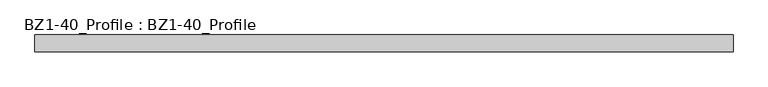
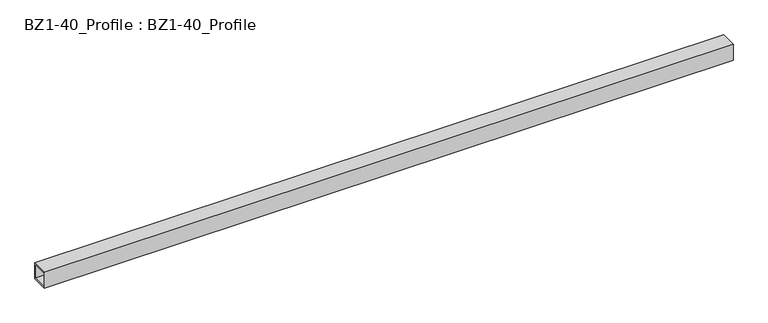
"""IFC4 building model written with IfcOpenShell, lengths in millimetres: beam geometry, BZ1-40_Profile : BZ1-40_Profile."""

import ifcopenshell
import ifcopenshell.guid

model = None  # the IFC model being written
_history = None  # IfcOwnerHistory: only IFC2X3 demands one
_inside = {}  # id of a spatial element -> (the spatial element, [elements in it])
_under = {}  # id of a project, library or spatial element -> (it, [spatial elements below it])
_declared = {}  # id of a project -> (the project, [libraries it declares])
_typed = {}  # id of a type object -> (the type object, [elements of that type])
_made_of = {}  # id of a material, layer set ... -> (it, [elements and type objects made of it])


def new_model(schema):
    """Start an empty IFC model of exactly this schema.

    Asked for "IFC4X3", IfcOpenShell would pick the latest addendum, in which some entities
    have other attributes; the version numbers below select the first issue.
    IFC2X3 requires an IfcOwnerHistory on every rooted entity: one is made here for all.
    """
    global model, _history
    if schema == "IFC4X3":
        model = ifcopenshell.file(schema_version=(4, 3, 0, 0))
    else:
        model = ifcopenshell.file(schema=schema)
    _inside.clear()
    _under.clear()
    _declared.clear()
    _typed.clear()
    _made_of.clear()
    _history = None
    if model.schema == "IFC2X3":
        org = make("IfcOrganization", Name="unknown")
        user = make(
            "IfcPersonAndOrganization",
            ThePerson=make("IfcPerson", FamilyName="unknown"),
            TheOrganization=org,
        )
        app = make(
            "IfcApplication",
            ApplicationDeveloper=org,
            Version="unknown",
            ApplicationFullName="unknown",
            ApplicationIdentifier="unknown",
        )
        _history = make(
            "IfcOwnerHistory",
            OwningUser=user,
            OwningApplication=app,
            ChangeAction="ADDED",
            CreationDate=0,
        )
    return model


def make(cls, **values):
    """One entity of the class cls with the attributes given. An attribute that is None is left unset."""
    return model.create_entity(
        cls, **{name: value for name, value in values.items() if value is not None}
    )


def rooted(cls, **values):
    """An entity with a GlobalId (a new one), such as an element, a storey or a relation."""
    return make(cls, GlobalId=ifcopenshell.guid.new(), OwnerHistory=_history, **values)


def si_unit(unit_type, name, prefix=None):
    """IfcSIUnit, for example si_unit("LENGTHUNIT", "METRE", prefix="MILLI")."""
    return make("IfcSIUnit", UnitType=unit_type, Prefix=prefix, Name=name)


def assignment(units):
    """IfcUnitAssignment: the units of a project."""
    return None if units is None else make("IfcUnitAssignment", Units=units)


def point(xyz):
    """IfcCartesianPoint."""
    return None if xyz is None else make("IfcCartesianPoint", Coordinates=xyz)


def direction(xyz):
    """IfcDirection."""
    return None if xyz is None else make("IfcDirection", DirectionRatios=xyz)


def frame(location, z_axis=None, x_axis=None):
    """IfcAxis2Placement3D, a coordinate frame: its origin and axes. An axis left out is left unset."""
    return make(
        "IfcAxis2Placement3D",
        Location=point(location),
        Axis=direction(z_axis),
        RefDirection=direction(x_axis),
    )


def origin():
    """The frame at (0, 0, 0) with its axes left unset."""
    return frame((0.0, 0.0, 0.0))


def place(relative_to, where):
    """IfcLocalPlacement: puts the frame where relative to a parent placement (None: the world)."""
    return make(
        "IfcLocalPlacement", PlacementRelTo=relative_to, RelativePlacement=where
    )


def context(
    kind, dimensions, precision=None, world=None, true_north=None, identifier=None
):
    """IfcGeometricRepresentationContext, for example the 3D "Model" context."""
    return make(
        "IfcGeometricRepresentationContext",
        ContextIdentifier=identifier,
        ContextType=kind,
        CoordinateSpaceDimension=dimensions,
        Precision=precision,
        WorldCoordinateSystem=world,
        TrueNorth=true_north,
    )


def project(units=None, contexts=None):
    """IfcProject with its units and contexts."""
    return rooted(
        "IfcProject",
        Name="project",
        RepresentationContexts=contexts,
        UnitsInContext=assignment(units),
    )


def spatial(cls, under=None, at=None, **own):
    """A site, building, storey or space (cls), placed at a placement, below another one or the project."""
    s = rooted(cls, ObjectPlacement=at, **own)
    if under is not None:
        _under.setdefault(under.id(), (under, []))[1].append(s)
    return s


def polyline(points):
    """IfcPolyline through the points."""
    return make("IfcPolyline", Points=[point(p) for p in points])


def outline(outer, holes=None, kind="AREA"):
    """IfcArbitraryClosedProfileDef: a profile drawn as a closed curve; with holes, ...WithVoids."""
    if holes is None:
        return make("IfcArbitraryClosedProfileDef", ProfileType=kind, OuterCurve=outer)
    return make(
        "IfcArbitraryProfileDefWithVoids",
        ProfileType=kind,
        OuterCurve=outer,
        InnerCurves=holes,
    )


def extrude(swept, where, along, depth):
    """IfcExtrudedAreaSolid: the profile swept, set in the frame where, extruded along a direction by depth."""
    return make(
        "IfcExtrudedAreaSolid",
        SweptArea=swept,
        Position=where,
        ExtrudedDirection=direction(along),
        Depth=depth,
    )


def shape(context_of_items, identifier, shape_type, items):
    """IfcShapeRepresentation: the items that make up one representation, for example the "Body"."""
    return make(
        "IfcShapeRepresentation",
        ContextOfItems=context_of_items,
        RepresentationIdentifier=identifier,
        RepresentationType=shape_type,
        Items=items,
    )


def source(mapping_origin, context_of_items, identifier, shape_type, items):
    """IfcRepresentationMap: a shape defined once, which mapped items show again and again."""
    return make(
        "IfcRepresentationMap",
        MappingOrigin=mapping_origin,
        MappedRepresentation=shape(context_of_items, identifier, shape_type, items),
    )


def transform(
    local_origin,
    x_axis=None,
    y_axis=None,
    z_axis=None,
    scale=None,
    scale2=None,
    scale3=None,
    uniform=True,
):
    """IfcCartesianTransformationOperator3D, or its non-uniform kind. x_axis, y_axis, z_axis: its Axis1, 2, 3."""
    if uniform:
        return make(
            "IfcCartesianTransformationOperator3D",
            Axis1=direction(x_axis),
            Axis2=direction(y_axis),
            LocalOrigin=point(local_origin),
            Scale=scale,
            Axis3=direction(z_axis),
        )
    return make(
        "IfcCartesianTransformationOperator3DnonUniform",
        Axis1=direction(x_axis),
        Axis2=direction(y_axis),
        LocalOrigin=point(local_origin),
        Scale=scale,
        Axis3=direction(z_axis),
        Scale2=scale2,
        Scale3=scale3,
    )


def mapped(mapping_source, mapping_target):
    """IfcMappedItem: shows the shape of a source again, moved by a transform."""
    return make(
        "IfcMappedItem", MappingSource=mapping_source, MappingTarget=mapping_target
    )


def made_of(thing, what):
    """Note that an element or type object is made of a material, layer set ...; save() writes the relation."""
    if what is not None:
        _made_of.setdefault(what.id(), (what, []))[1].append(thing)
    return thing


def element(
    cls,
    number,
    at=None,
    inside=None,
    cuts=None,
    type_object=None,
    material=None,
    context=None,
    identifier="Body",
    shape_type=None,
    held_by="IfcProductDefinitionShape",
    body=None,
    shapes=None,
    **own,
):
    """One element of the class cls, such as IfcWall. Its Tag is "e" and its number.

    at: its placement. inside: the storey or other place that contains it. cuts: it is an
    opening in that element (IfcRelVoidsElement). A single representation is given by context,
    identifier, shape_type and body (its items); several are given by shapes. held_by: the class
    of the entity that holds the representations. save() writes the other relations.
    """
    e = rooted(cls, Tag="e%d" % number, ObjectPlacement=at, **own)
    if body is not None:
        shapes = [shape(context, identifier, shape_type, body)]
    if shapes is not None:
        e.Representation = make(held_by, Representations=shapes)
    if inside is not None:
        _inside.setdefault(inside.id(), (inside, []))[1].append(e)
    if cuts is not None:
        rooted(
            "IfcRelVoidsElement", RelatingBuildingElement=cuts, RelatedOpeningElement=e
        )
    if type_object is not None:
        _typed.setdefault(type_object.id(), (type_object, []))[1].append(e)
    return made_of(e, material)


def aggregate(whole, parts):
    """IfcRelAggregates: a whole, such as a stair, and the parts it consists of."""
    return rooted("IfcRelAggregates", RelatingObject=whole, RelatedObjects=parts)


def save(model, path):
    """Write the relations noted so far, then the file.

    IfcRelAggregates (storeys below a building ...), IfcRelContainedInSpatialStructure (elements
    in a storey), IfcRelDefinesByType, IfcRelAssociatesMaterial and IfcRelDeclares: one each for
    every whole, place, type object, material and project.
    """
    for whole, parts in _under.values():
        aggregate(whole, parts)
    for where, things in _inside.values():
        rooted(
            "IfcRelContainedInSpatialStructure",
            RelatedElements=things,
            RelatingStructure=where,
        )
    for kind, things in _typed.values():
        rooted("IfcRelDefinesByType", RelatedObjects=things, RelatingType=kind)
    for what, things in _made_of.values():
        rooted("IfcRelAssociatesMaterial", RelatedObjects=things, RelatingMaterial=what)
    for by, libraries in _declared.values():
        rooted("IfcRelDeclares", RelatingContext=by, RelatedDefinitions=libraries)
    model.write(path)


def bz1_40_profile_bz1_40_profile_404621f4(model_context):
    return source(origin(), model_context, "Body", "SweptSolid", [
        extrude(outline(polyline([(-20.0, 20.0), (20.0, 20.0), (20.0, -20.0), (-20.0, -20.0), (-20.0, 20.0)]), holes=[polyline([(-16.0, 16.0), (-16.0, -16.0), (16.0, -16.0), (16.0, 16.0), (-16.0, 16.0)])]), frame((-832.6671988, 0.0, 0.0), z_axis=(1.0, 0.0, 0.0), x_axis=(0.0, 1.0, 0.0)), (0.0, 0.0, 1.0), 1665.3343977),
    ])


if __name__ == "__main__":
    model = new_model("IFC4")
    model_context = context("Model", 3, world=origin())
    ifc_project = project(units=[si_unit("LENGTHUNIT", "METRE", prefix="MILLI")], contexts=[model_context])
    site = spatial("IfcSite", under=ifc_project)
    building = spatial("IfcBuilding", under=site)
    placement = place(None, origin())
    bz1_40_profile_bz1_40_profile_shape = bz1_40_profile_bz1_40_profile_404621f4(model_context)
    element("IfcBeam", 1, ObjectType="BZ1-40_Profile : BZ1-40_Profile", at=placement, inside=building, context=model_context, shape_type="MappedRepresentation", body=[
        mapped(bz1_40_profile_bz1_40_profile_shape, transform((0.0, 0.0, 0.0), x_axis=(1.0, 0.0, 0.0), y_axis=(0.0, 1.0, 0.0), z_axis=(0.0, 0.0, 1.0))),
    ])
    save(model, "model.ifc")
